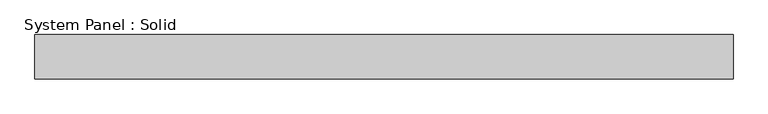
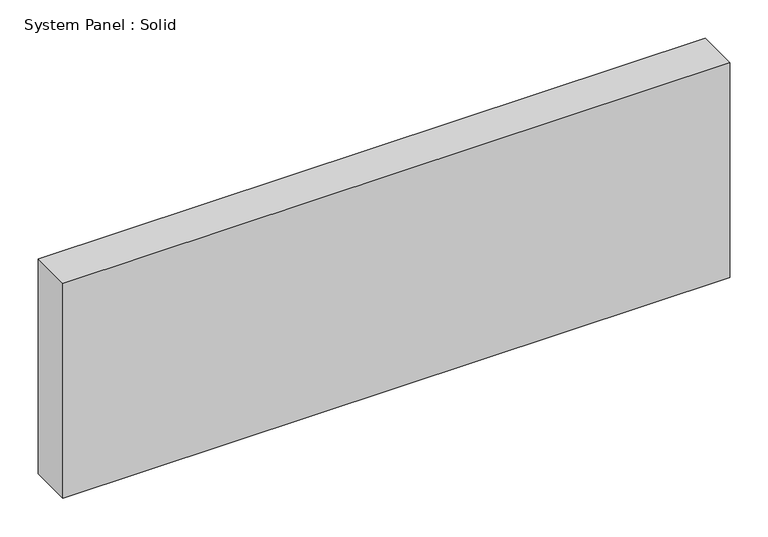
"""IFC4 building model written with IfcOpenShell, lengths in millimetres: plate geometry, System Panel : Solid."""

from ifc_helpers import new_model, si_unit, origin, origin_with_axes, place, context, project, spatial, polyline, outline, extrude, source, transform, mapped, element, save


def system_panel_solid_5eed64b9(model_context):
    return source(origin(), model_context, "Body", "SweptSolid", [
        extrude(outline(polyline([(499.8120624, -19.05), (-499.8120624, -19.05), (-499.8120624, 44.45), (499.8120624, 44.45), (499.8120624, -19.05)])), origin_with_axes(), (0.0, 0.0, 1.0), 341.0388226),
    ])


if __name__ == "__main__":
    model = new_model("IFC4")
    model_context = context("Model", 3, world=origin())
    ifc_project = project(units=[si_unit("LENGTHUNIT", "METRE", prefix="MILLI")], contexts=[model_context])
    site = spatial("IfcSite", under=ifc_project)
    building = spatial("IfcBuilding", under=site)
    placement = place(None, origin())
    system_panel_solid_shape = system_panel_solid_5eed64b9(model_context)
    element("IfcPlate", 1, ObjectType="System Panel : Solid", at=placement, inside=building, context=model_context, shape_type="MappedRepresentation", body=[
        mapped(system_panel_solid_shape, transform((0.0, 0.0, 0.0), x_axis=(1.0, 0.0, 0.0), y_axis=(0.0, 1.0, 0.0), z_axis=(0.0, 0.0, 1.0))),
    ])
    save(model, "model.ifc")
